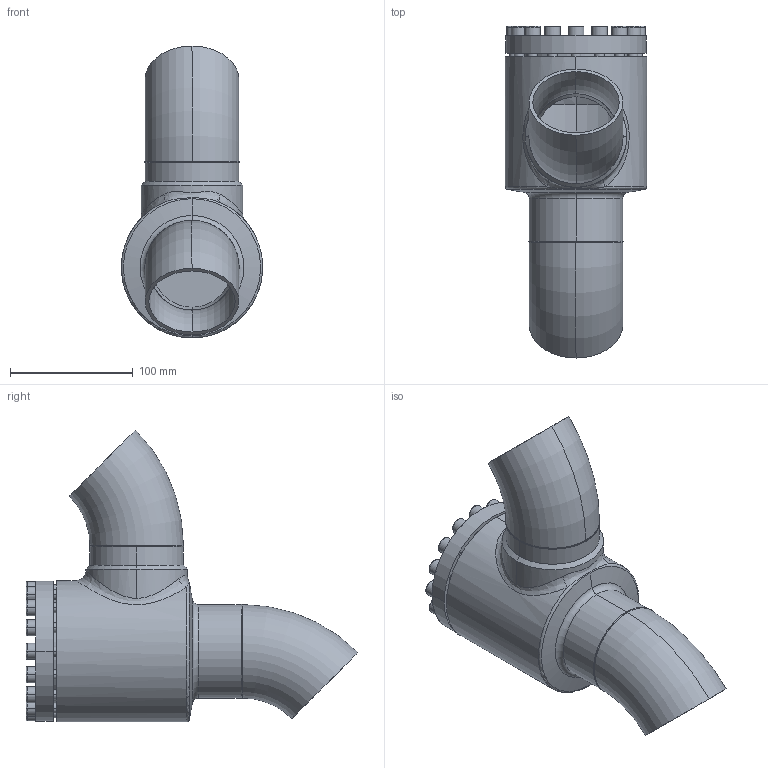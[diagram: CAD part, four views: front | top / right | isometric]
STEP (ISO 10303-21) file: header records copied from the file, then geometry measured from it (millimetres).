
FILE_DESCRIPTION (( 'STEP AP214' ), '1' );
FILE_NAME ('SS52300D17-DN065_R1_PS40.STEP', '2006-05-02T05:44:04', ( 'Herr Grams' ), ( 'AWP GmbH' ), 'SwSTEP 2.0', 'SolidWorks 2002296', '' );
FILE_SCHEMA (( 'AUTOMOTIVE_DESIGN' ));
Length unit declared in the file: millimetre
Products named in the file (9): SS52300D17-DN065_R1_PS40; Gehäuse-kpl16300-DN065_R1_Standard; Gehäuse16400-DN065_Standard; bead-DN065-3_Standard; bead-DN065-2_Standard; Rohrbogen 45°_Rohrbogen-DN065-45°; SS52300K17_Deck+Schr-DN65_Standard; Deckel52300K17-DN65_Standard; Zylinderschraube-DIN912_M 8x 25
Assembly tree (24 placements, depth 3):
  SS52300D17-DN065_R1_PS40
    Gehäuse-kpl16300-DN065_R1_Standard
      bead-DN065-3_Standard
      Gehäuse16400-DN065_Standard
      Rohrbogen 45°_Rohrbogen-DN065-45°  x2
      bead-DN065-2_Standard
    SS52300K17_Deck+Schr-DN65_Standard
      Zylinderschraube-DIN912_M 8x 25  x16
      Deckel52300K17-DN65_Standard
Bounding box: 115 x 270.08 x 237.58 mm (x, y, z)
Volume: 743748.1 mm3; surface area: 243154.2 mm2
Topology: 22 solids, 22 shells, 394 faces, 862 edges, 547 vertices
Faces by surface type: plane 178, cylinder 120, torus 44, cone 42, bspline 10
Entity records: 15147 total; most frequent: CARTESIAN_POINT 11691, DIRECTION 666, ORIENTED_EDGE 560, AXIS2_PLACEMENT_3D 287, EDGE_CURVE 280, VERTEX_POINT 179, EDGE_LOOP 165, CIRCLE 150
